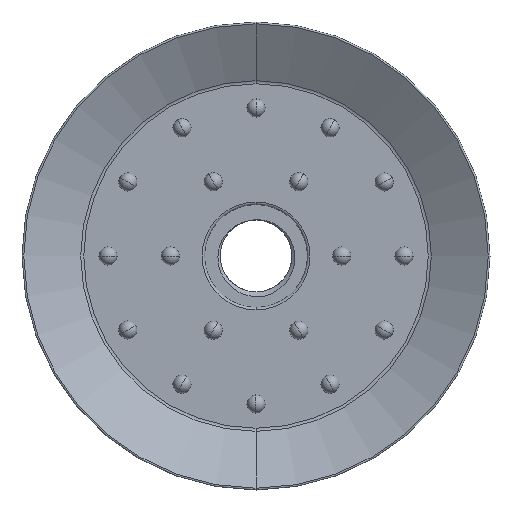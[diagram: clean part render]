
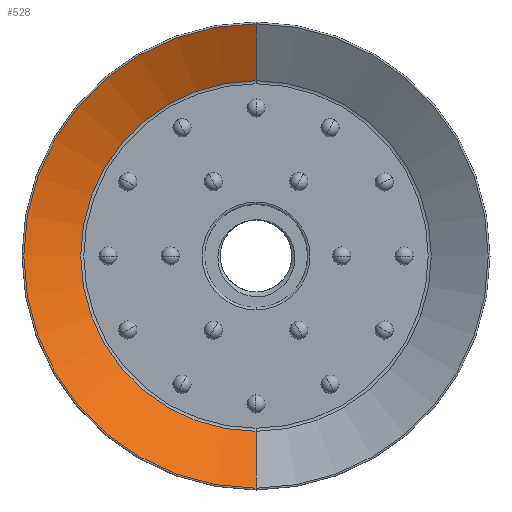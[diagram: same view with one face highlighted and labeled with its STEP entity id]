
A CAD part, front view. The second image highlights one B-rep face of the part: STEP entity #528.
In plain terms, the highlighted conical face has half-angle 60.126 degrees and reference radius 37.224 mm.
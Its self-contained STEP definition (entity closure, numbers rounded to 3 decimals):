
#2 = ORIENTED_EDGE ( 'NONE', *, *, #2133, .T. ) ;
#12 = FACE_OUTER_BOUND ( 'NONE', #2189, .T. ) ;
#189 = CARTESIAN_POINT ( 'NONE',  ( 0., -15.351, -37.224 ) ) ;
#437 = ORIENTED_EDGE ( 'NONE', *, *, #2947, .F. ) ;
#450 = AXIS2_PLACEMENT_3D ( 'NONE', #886, #2789, #1446 ) ;
#528 = ADVANCED_FACE ( 'NONE', ( #12 ), #1124, .F. ) ;
#616 = CARTESIAN_POINT ( 'NONE',  ( 0., -10.11, -28.099 ) ) ;
#632 = CARTESIAN_POINT ( 'NONE',  ( 0., -15.351, 37.224 ) ) ;
#670 = CARTESIAN_POINT ( 'NONE',  ( 0., -10.11, 28.099 ) ) ;
#802 = CARTESIAN_POINT ( 'NONE',  ( 0., -15.351, -37.224 ) ) ;
#886 = CARTESIAN_POINT ( 'NONE',  ( 0., -15.351, 0. ) ) ;
#994 = CIRCLE ( 'NONE', #3372, 37.224 ) ;
#996 = CIRCLE ( 'NONE', #1475, 28.099 ) ;
#1124 = CONICAL_SURFACE ( 'NONE', #450, 37.224, 1.049 ) ;
#1201 = LINE ( 'NONE', #632, #2713 ) ;
#1254 = LINE ( 'NONE', #802, #2649 ) ;
#1446 = DIRECTION ( 'NONE',  ( 0., 0., -1. ) ) ;
#1475 = AXIS2_PLACEMENT_3D ( 'NONE', #1799, #2076, #1821 ) ;
#1799 = CARTESIAN_POINT ( 'NONE',  ( 0., -10.11, 0. ) ) ;
#1821 = DIRECTION ( 'NONE',  ( 0., 0., -1. ) ) ;
#1889 = VERTEX_POINT ( 'NONE', #616 ) ;
#1894 = DIRECTION ( 'NONE',  ( 0., 1., 0. ) ) ;
#2076 = DIRECTION ( 'NONE',  ( 0., 1., 0. ) ) ;
#2133 = EDGE_CURVE ( 'NONE', #2262, #3108, #1201, .T. ) ;
#2189 = EDGE_LOOP ( 'NONE', ( #2887, #2, #3364, #437 ) ) ;
#2262 = VERTEX_POINT ( 'NONE', #670 ) ;
#2319 = EDGE_CURVE ( 'NONE', #1889, #2262, #996, .T. ) ;
#2423 = CARTESIAN_POINT ( 'NONE',  ( 0., -15.351, 0. ) ) ;
#2485 = CARTESIAN_POINT ( 'NONE',  ( 0., -15.351, 37.224 ) ) ;
#2649 = VECTOR ( 'NONE', #2702, 1000. ) ;
#2702 = DIRECTION ( 'NONE',  ( 0., -0.498, -0.867 ) ) ;
#2713 = VECTOR ( 'NONE', #2853, 1000. ) ;
#2789 = DIRECTION ( 'NONE',  ( 0., -1., 0. ) ) ;
#2853 = DIRECTION ( 'NONE',  ( 0., -0.498, 0.867 ) ) ;
#2887 = ORIENTED_EDGE ( 'NONE', *, *, #2319, .T. ) ;
#2946 = EDGE_CURVE ( 'NONE', #3513, #3108, #994, .T. ) ;
#2947 = EDGE_CURVE ( 'NONE', #1889, #3513, #1254, .T. ) ;
#3108 = VERTEX_POINT ( 'NONE', #2485 ) ;
#3278 = DIRECTION ( 'NONE',  ( 0., 0., 1. ) ) ;
#3364 = ORIENTED_EDGE ( 'NONE', *, *, #2946, .F. ) ;
#3372 = AXIS2_PLACEMENT_3D ( 'NONE', #2423, #1894, #3278 ) ;
#3513 = VERTEX_POINT ( 'NONE', #189 ) ;
